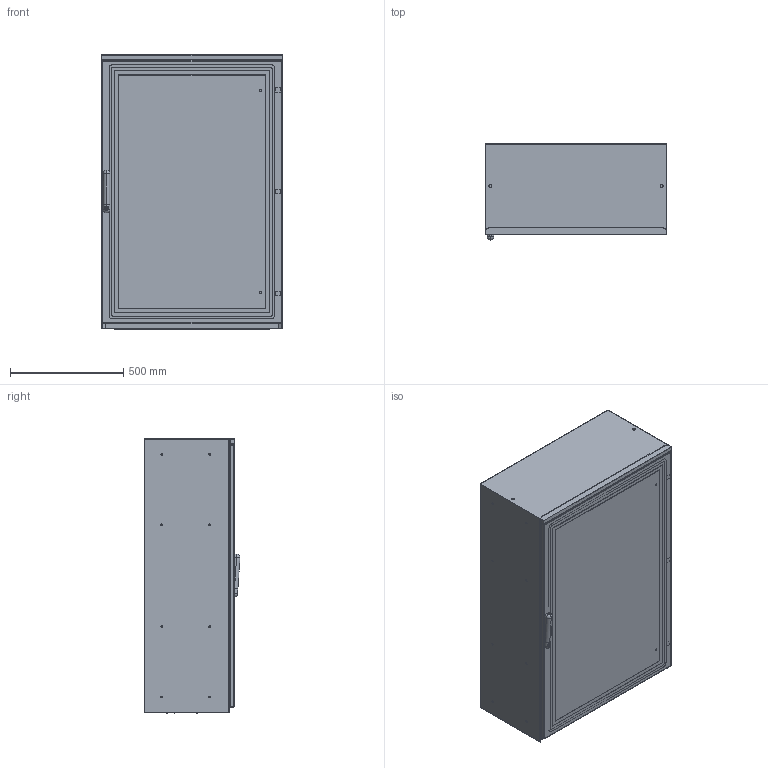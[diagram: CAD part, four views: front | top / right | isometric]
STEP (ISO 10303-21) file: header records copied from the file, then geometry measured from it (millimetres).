
FILE_DESCRIPTION (( 'STEP AP203' ), '1' );
FILE_NAME ('ECOMP81240.STEP', '2023-09-25T14:05:39', ( '' ), ( '' ), 'SwSTEP 2.0', 'SolidWorks 2022', '' );
FILE_SCHEMA (( 'CONFIG_CONTROL_DESIGN' ));
Length unit declared in the file: millimetre
Products named in the file (10): AR_ECOMP_maniglia; AR_ECOMP_struttura_0800x1200x0400; AR_ECOMP_tegolino_0800x0050; AR_ECOMP_porta_singola_2.0_0800x1200_ANT; AR_ECOMP_assieme_maniglia; ECOMP81240; AR_ECOMP_inserto_maniglia_Doppia_aletta; AR_ECOMP_montaggio_porta_singlola_2.0_0800x1200_ANT_DX; AR_ECOMP_tegolino_0800x0100; AR_ECOMP_piastra_interna_0800x1200
Assembly tree (10 placements, depth 4):
  ECOMP81240
    AR_ECOMP_struttura_0800x1200x0400
    AR_ECOMP_montaggio_porta_singlola_2.0_0800x1200_ANT_DX
      AR_ECOMP_porta_singola_2.0_0800x1200_ANT
      AR_ECOMP_assieme_maniglia
        AR_ECOMP_maniglia
        AR_ECOMP_inserto_maniglia_Doppia_aletta
    AR_ECOMP_piastra_interna_0800x1200
    AR_ECOMP_tegolino_0800x0050
    AR_ECOMP_tegolino_0800x0100  x2
Bounding box: 800 x 423.48 x 1211.49 mm (x, y, z)
Volume: 8377928.3 mm3; surface area: 10230210.9 mm2
Topology: 8 solids, 8 shells, 1201 faces, 3124 edges, 1993 vertices
Faces by surface type: cylinder 594, plane 578, bspline 10, sphere 8, torus 7, cone 4
Entity records: 38252 total; most frequent: CARTESIAN_POINT 7675, DIRECTION 6350, ORIENTED_EDGE 5936, EDGE_CURVE 2968, AXIS2_PLACEMENT_3D 2290, VERTEX_POINT 1913, VECTOR 1770, LINE 1770
